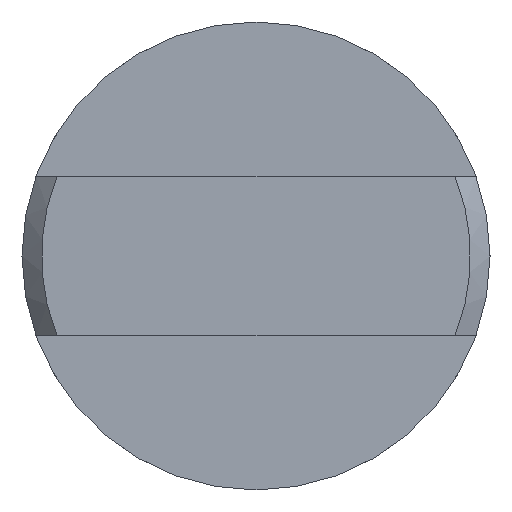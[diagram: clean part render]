
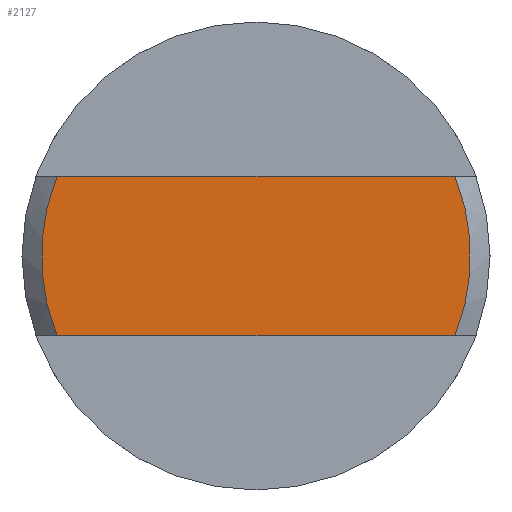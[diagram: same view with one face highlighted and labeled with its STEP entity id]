
A CAD part, left-side view. The second image highlights one B-rep face of the part: STEP entity #2127.
In plain terms, the highlighted planar face has unit normal (-1, 0, 0).
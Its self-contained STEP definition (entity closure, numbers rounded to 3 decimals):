
#7 = CIRCLE ( 'NONE', #1362, 5.5 ) ;
#164 = ORIENTED_EDGE ( 'NONE', *, *, #1329, .T. ) ;
#176 = VERTEX_POINT ( 'NONE', #1942 ) ;
#235 = VERTEX_POINT ( 'NONE', #796 ) ;
#319 = VERTEX_POINT ( 'NONE', #840 ) ;
#332 = CARTESIAN_POINT ( 'NONE',  ( -55.75, 0., 0. ) ) ;
#381 = ORIENTED_EDGE ( 'NONE', *, *, #1195, .T. ) ;
#390 = LINE ( 'NONE', #1197, #832 ) ;
#402 = DIRECTION ( 'NONE',  ( 0., 0., -1. ) ) ;
#448 = EDGE_CURVE ( 'NONE', #1194, #176, #7, .T. ) ;
#476 = DIRECTION ( 'NONE',  ( -1., 0., 0. ) ) ;
#599 = ORIENTED_EDGE ( 'NONE', *, *, #448, .T. ) ;
#650 = CARTESIAN_POINT ( 'NONE',  ( -55.75, -5.104, -2.05 ) ) ;
#691 = CIRCLE ( 'NONE', #1770, 5.5 ) ;
#796 = CARTESIAN_POINT ( 'NONE',  ( -55.75, 5.104, 2.05 ) ) ;
#832 = VECTOR ( 'NONE', #1393, 1000. ) ;
#840 = CARTESIAN_POINT ( 'NONE',  ( -55.75, 5.104, -2.05 ) ) ;
#959 = ORIENTED_EDGE ( 'NONE', *, *, #1206, .T. ) ;
#1000 = CARTESIAN_POINT ( 'NONE',  ( -55.75, 0., 2.05 ) ) ;
#1155 = LINE ( 'NONE', #1000, #1968 ) ;
#1162 = EDGE_LOOP ( 'NONE', ( #164, #599, #381, #959 ) ) ;
#1194 = VERTEX_POINT ( 'NONE', #650 ) ;
#1195 = EDGE_CURVE ( 'NONE', #176, #235, #1155, .T. ) ;
#1197 = CARTESIAN_POINT ( 'NONE',  ( -55.75, 0., -2.05 ) ) ;
#1206 = EDGE_CURVE ( 'NONE', #235, #319, #691, .T. ) ;
#1312 = AXIS2_PLACEMENT_3D ( 'NONE', #2073, #1746, #1416 ) ;
#1329 = EDGE_CURVE ( 'NONE', #319, #1194, #390, .T. ) ;
#1337 = DIRECTION ( 'NONE',  ( 0., 0., -1. ) ) ;
#1362 = AXIS2_PLACEMENT_3D ( 'NONE', #1551, #1435, #402 ) ;
#1393 = DIRECTION ( 'NONE',  ( 0., -1., 0. ) ) ;
#1416 = DIRECTION ( 'NONE',  ( 0., 0., -1. ) ) ;
#1435 = DIRECTION ( 'NONE',  ( -1., 0., 0. ) ) ;
#1458 = DIRECTION ( 'NONE',  ( 0., 1., 0. ) ) ;
#1551 = CARTESIAN_POINT ( 'NONE',  ( -55.75, 0., 0. ) ) ;
#1571 = FACE_OUTER_BOUND ( 'NONE', #1162, .T. ) ;
#1746 = DIRECTION ( 'NONE',  ( 1., 0., 0. ) ) ;
#1770 = AXIS2_PLACEMENT_3D ( 'NONE', #332, #476, #1337 ) ;
#1854 = PLANE ( 'NONE',  #1312 ) ;
#1942 = CARTESIAN_POINT ( 'NONE',  ( -55.75, -5.104, 2.05 ) ) ;
#1968 = VECTOR ( 'NONE', #1458, 1000. ) ;
#2073 = CARTESIAN_POINT ( 'NONE',  ( -55.75, 0., 0. ) ) ;
#2127 = ADVANCED_FACE ( 'NONE', ( #1571 ), #1854, .F. ) ;
